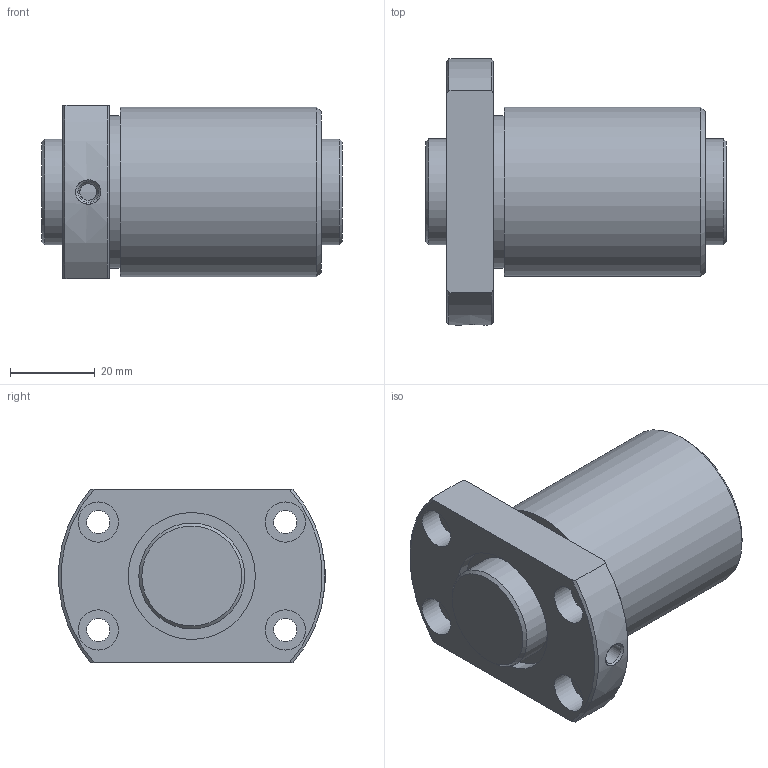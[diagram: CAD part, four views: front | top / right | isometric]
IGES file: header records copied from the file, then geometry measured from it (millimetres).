
Start section: Data from Parasolid IGES Translator 26.0.171, Copyright(c) 2006 Siemens PLM Software. All Rights Reserved.
Global section: file name: DIK2505-6RRG0+71LC0_000.igs; native system: By Siemens PLM Incorporated; preprocessor: XPlus GENERIC/IGES 26.0.171; author: Noname; organization: Noname; date: 20250113.094833; units: millimetre
Bounding box: 71 x 62.9 x 41 mm (x, y, z)
Surface area: 24860.9 mm2 (no closed solid volume)
Topology: 0 solids, 0 shells, 41 faces, 174 edges, 143 vertices
Faces by surface type: revolution 27, extrusion 14
